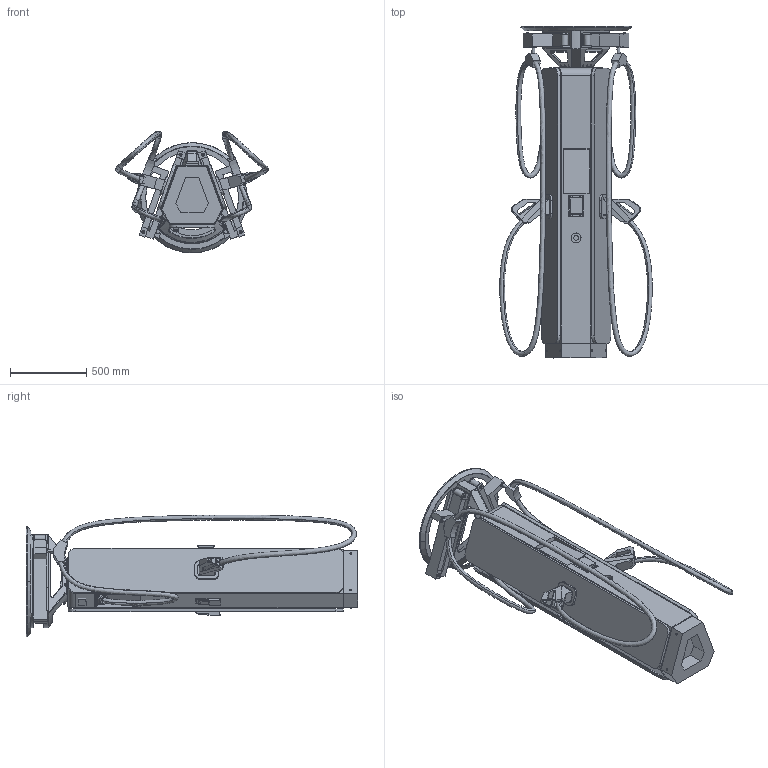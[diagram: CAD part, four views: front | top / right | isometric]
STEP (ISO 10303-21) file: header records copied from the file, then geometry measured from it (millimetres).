
FILE_DESCRIPTION((''),'2;1');
FILE_NAME('1758693045682_ASM','2025-09-24T11:21:10',('SESA617601'),('Schneider-Electric'),'CREO PARAMETRIC BY PTC INC, 2022484','CREO PARAMETRIC BY PTC INC, 2022484','');
FILE_SCHEMA(('AP242_MANAGED_MODEL_BASED_3D_ENGINEERING_MIM_LF { 1 0 10303 442 1 1 4 }'));
Products named in the file (20): EMPTYNODE_1758693045781_ASM; DP-15480; AJGFAS; DISPENSER-DC-720-3D_ASM; BREP_91_2; PRT0003_1; A000-586761_1_2_ASM_1_ASM; DISPENSER-5M-CABLE-3D_ASM; HANDLE-DC-3D; HANDLE-DC-3D_ASM; DP-3D; AJG; AJGFAS-3D; DISPENSER-TOP-5M-3D_ASM; DP-CABLE-3D; AJGFAS16LOCK; DISPENSER-TOP-CABLE-3D_ASM; PAYMENT-TERMINAL-PRT; PAYMENT-TERMINAL-3D_ASM; 1758693045682_ASM
Assembly tree (48 placements, depth 4):
  1758693045682_ASM
    EMPTYNODE_1758693045781_ASM
    DISPENSER-DC-720-3D_ASM
      DP-15480
      AJGFAS  x6
    DISPENSER-5M-CABLE-3D_ASM
      A000-586761_1_2_ASM_1_ASM
        BREP_91_2
        PRT0003_1
    HANDLE-DC-3D_ASM  x2
      HANDLE-DC-3D
    DISPENSER-TOP-5M-3D_ASM
      DP-3D
      AJG  x12
      AJGFAS-3D  x6
    DISPENSER-TOP-CABLE-3D_ASM
      DP-CABLE-3D
      AJGFAS16LOCK  x8
    PAYMENT-TERMINAL-3D_ASM
      PAYMENT-TERMINAL-PRT
Bounding box: 996.89 x 2170.23 x 796.19 mm (x, y, z)
Volume: 277352795.5 mm3; surface area: 9985364.7 mm2
Topology: 44 solids, 50 shells, 2403 faces, 6104 edges, 3936 vertices
Faces by surface type: plane 1384, cylinder 591, extrusion 219, cone 151, sphere 36, torus 18, bspline 4
Entity records: 103393 total; most frequent: CARTESIAN_POINT 60897, ORIENTED_EDGE 6078, DIRECTION 5732, PRESENTATION_STYLE_ASSIGNMENT 3338, STYLED_ITEM 3063, CURVE_STYLE 3047, EDGE_CURVE 3039, VECTOR 2102
